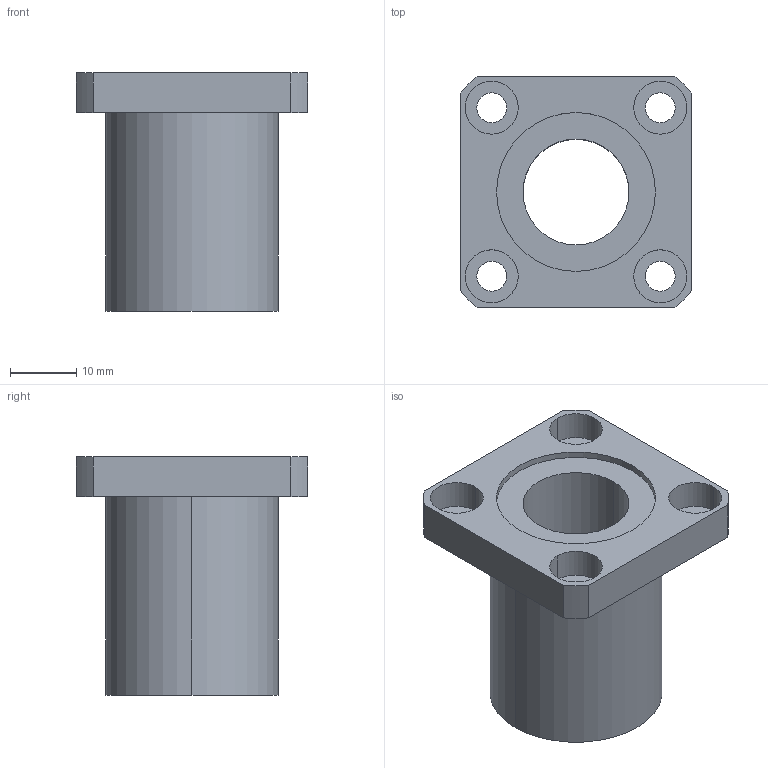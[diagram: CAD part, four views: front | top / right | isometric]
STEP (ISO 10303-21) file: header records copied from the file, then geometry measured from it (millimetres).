
FILE_DESCRIPTION((''),'2;1');
FILE_NAME('C:\Documents and Settings\ｿﾀﾀ蠑ｷ1\ｹﾙﾅﾁ ﾈｭｸ饅\ｺﾎﾇｰﾆﾄﾀﾏ\ﾁｦﾇｰ\LMEK__UU\LMEK16UU.stp','2005-06-15T10:58:06',('ｿﾀﾀ蠑ｷ1'),(''),'Autodesk Inventor 9','Autodesk Inventor 9','');
FILE_SCHEMA(('AUTOMOTIVE_DESIGN { 1 0 10303 214 1 1 1 1 }'));
Length unit declared in the file: millimetre
Products named in the file (1): LMEK__(L)
Bounding box: 35 x 35 x 36 mm (x, y, z)
Volume: 14475.3 mm3; surface area: 7542.4 mm2
Topology: 1 solids, 1 shells, 41 faces, 96 edges, 64 vertices
Faces by surface type: bspline 20, cylinder 12, plane 9
Entity records: 1457 total; most frequent: CARTESIAN_POINT 486, DIRECTION 196, ORIENTED_EDGE 192, EDGE_CURVE 96, AXIS2_PLACEMENT_3D 78, VERTEX_POINT 64, EDGE_LOOP 58, CIRCLE 56
